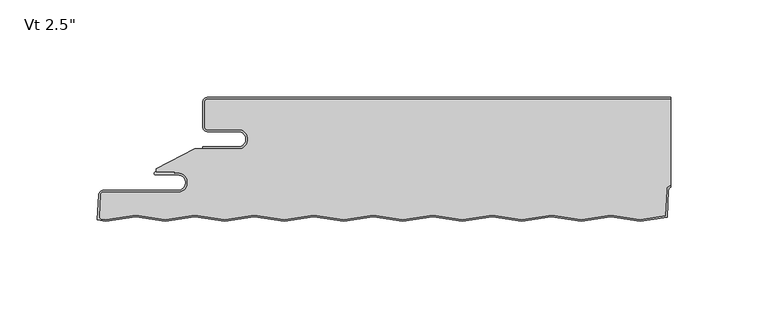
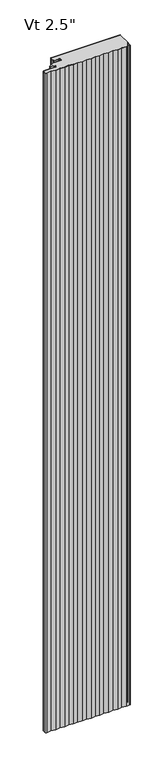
"""IFC4 building model written with IfcOpenShell, lengths in millimetres: plate geometry."""

from ifc_helpers import new_model, si_unit, point, frame, frame_2d, origin, origin_with_axes, place, context, project, spatial, polyline, circle_curve, trimmed, segment, composite_curve, outline, extrude, source, transform, mapped, element, save
from ifc_brep_helpers import plane_surface, cylinder_surface, revolved_surface, advanced_brep


def plate_a8491a3e(model_context):
    return source(origin(), model_context, "Body", "SolidModel", [
        extrude(outline(composite_curve([segment(polyline([(-101.3437498, -16.4625), (-117.2187498, -16.4625)]), True, "CONTINUOUS"), segment(trimmed(circle_curve(frame_2d((-117.2187498, -15.08125)), 1.38125), [point((-117.2187498, -16.4625))], [point((-118.5999998, -15.08125))], False, "CARTESIAN"), True, "CONTINUOUS"), segment(polyline([(-118.5999998, -15.08125), (-118.5999998, -2.38125)]), True, "CONTINUOUS"), segment(trimmed(circle_curve(frame_2d((-117.2187498, -2.38125)), 1.38125), [point((-118.5999998, -2.38125))], [point((-117.2187498, -1.0))], False, "CARTESIAN"), True, "CONTINUOUS"), segment(polyline([(-117.2187498, -1.0), (120.4062498, -1.0), (120.4062498, -45.091556)]), True, "CONTINUOUS"), segment(trimmed(circle_curve(frame_2d((120.9323848, -47.625)), 2.5875), [point((120.4062498, -45.091556))], [point((118.3484309, -47.4895807))], True, "CARTESIAN"), True, "CONTINUOUS"), segment(polyline([(118.3484309, -47.4895807), (117.6552662, -60.71595), (104.8725002, -62.7611926), (89.8350676, -60.3552034), (74.5950676, -62.7936034), (59.3550676, -60.3552034), (44.1150676, -62.7936034), (28.8750676, -60.3552034), (13.6350676, -62.7936034), (-1.6049324, -60.3552034), (-16.8449324, -62.7936034), (-32.0849324, -60.3552034), (-47.3249324, -62.7936034), (-62.5649324, -60.3552034), (-77.8049324, -62.7936034), (-93.0449324, -60.3552034), (-108.2849324, -62.7936034), (-123.5249324, -60.3552034), (-138.7649324, -62.7936034), (-154.0049324, -60.3552034), (-169.2449324, -62.7936034), (-171.5109206, -62.4310452)]), True, "CONTINUOUS"), segment(trimmed(circle_curve(frame_2d((-171.0799534, -61.11875)), 1.38125), [point((-171.5109206, -62.4310452))], [point((-172.4593104, -61.046461))], False, "CARTESIAN"), True, "CONTINUOUS"), segment(polyline([(-172.4593104, -61.046461), (-171.876929, -49.933961)]), True, "CONTINUOUS"), segment(trimmed(circle_curve(frame_2d((-170.4975719, -50.00625)), 1.38125), [point((-171.876929, -49.933961))], [point((-170.4975719, -48.625))], False, "CARTESIAN"), True, "CONTINUOUS"), segment(polyline([(-170.4975719, -48.625), (-132.3142673, -48.625)]), True, "CONTINUOUS"), segment(trimmed(circle_curve(frame_2d((-132.3142673, -43.65625)), 4.96875), [point((-132.3142673, -48.625))], [point((-132.3142673, -38.6875))], True, "CARTESIAN"), True, "CONTINUOUS"), segment(polyline([(-132.3142673, -38.6875), (-133.9017673, -38.89375), (-133.9017673, -38.1), (-143.4124998, -38.1), (-143.4124998, -36.5326309), (-123.5260921, -26.4), (-101.3437498, -26.4)]), True, "CONTINUOUS"), segment(trimmed(circle_curve(frame_2d((-101.3437498, -21.43125)), 4.96875), [point((-101.3437498, -26.4))], [point((-101.3437498, -16.4625))], True, "CARTESIAN"), True, "CONTINUOUS")], self_intersect=False)), origin_with_axes(), (0.0, 0.0, 1.0), 2400.0),
        extrude(outline(composite_curve([segment(polyline([(-119.5999998, -25.4), (-101.3437498, -25.4)]), True, "CONTINUOUS"), segment(trimmed(circle_curve(frame_2d((-101.3437498, -21.43125)), 3.96875), [point((-101.3437498, -25.4))], [point((-101.3437498, -17.4625))], True, "CARTESIAN"), True, "CONTINUOUS"), segment(polyline([(-101.3437498, -17.4625), (-117.2187498, -17.4625)]), True, "CONTINUOUS"), segment(trimmed(circle_curve(frame_2d((-117.2187498, -15.08125)), 2.38125), [point((-117.2187498, -17.4625))], [point((-119.5999998, -15.08125))], False, "CARTESIAN"), True, "CONTINUOUS"), segment(polyline([(-119.5999998, -15.08125), (-119.5999998, -2.38125)]), True, "CONTINUOUS"), segment(trimmed(circle_curve(frame_2d((-117.2187498, -2.38125)), 2.38125), [point((-119.5999998, -2.38125))], [point((-117.2187498, 0.0))], False, "CARTESIAN"), True, "CONTINUOUS"), segment(polyline([(-117.2187498, 0.0), (120.4062498, 0.0), (120.4062498, -1.0), (-117.2187498, -1.0)]), True, "CONTINUOUS"), segment(trimmed(circle_curve(frame_2d((-117.2187498, -2.38125)), 1.38125), [point((-117.2187498, -1.0))], [point((-118.5999998, -2.38125))], True, "CARTESIAN"), True, "CONTINUOUS"), segment(polyline([(-118.5999998, -2.38125), (-118.5999998, -15.08125)]), True, "CONTINUOUS"), segment(trimmed(circle_curve(frame_2d((-117.2187498, -15.08125)), 1.38125), [point((-118.5999998, -15.08125))], [point((-117.2187498, -16.4625))], True, "CARTESIAN"), True, "CONTINUOUS"), segment(polyline([(-117.2187498, -16.4625), (-101.3437498, -16.4625)]), True, "CONTINUOUS"), segment(trimmed(circle_curve(frame_2d((-101.3437498, -21.43125)), 4.96875), [point((-101.3437498, -16.4625))], [point((-101.3437498, -26.4))], False, "CARTESIAN"), True, "CONTINUOUS"), segment(polyline([(-101.3437498, -26.4), (-119.5999998, -26.4), (-119.5999998, -25.4)]), True, "CONTINUOUS")], self_intersect=False)), origin_with_axes(), (0.0, 0.0, 1.0), 2400.0),
        advanced_brep(
        [(-143.6252048, -38.1, 2400.0), (-143.6252048, -39.6875, 2400.0), (-132.3142673, -39.6875, 2400.0), (-132.3142673, -47.625, 2400.0), (-170.4975719, -47.625, 2400.0), (-172.8755585, -49.881625, 2400.0), (-173.553306, -62.813818, 2400.0), (-169.2646685, -63.5, 2400.0), (-154.0246685, -61.0616, 2400.0), (-138.7846685, -63.5, 2400.0), (-123.5446685, -61.0616, 2400.0), (-108.3046685, -63.5, 2400.0), (-93.0646685, -61.0616, 2400.0), (-77.8246685, -63.5, 2400.0), (-62.5846685, -61.0616, 2400.0), (-47.3446685, -63.5, 2400.0), (-32.1046685, -61.0616, 2400.0), (-16.8646685, -63.5, 2400.0), (-1.6246685, -61.0616, 2400.0), (13.6153315, -63.5, 2400.0), (28.8553315, -61.0616, 2400.0), (44.0953315, -63.5, 2400.0), (59.3353315, -61.0616, 2400.0), (74.5753315, -63.5, 2400.0), (89.8153315, -61.0616, 2400.0), (104.9540478, -63.4837946, 2400.0), (118.6245136, -61.3289309, 2400.0), (119.3470604, -47.5419167, 2400.0), (120.4062498, -46.1272222, 2400.0), (120.4062498, -45.091556, 2400.0), (118.3484309, -47.4895807, 2400.0), (117.6681967, -60.4692225, 2400.0), (105.0553315, -62.4872809, 2400.0), (89.8153315, -60.0488809, 2400.0), (74.5753315, -62.4872809, 2400.0), (59.3353315, -60.0488809, 2400.0), (44.0953315, -62.4872809, 2400.0), (28.8553315, -60.0488809, 2400.0), (13.6153315, -62.4872809, 2400.0), (-1.6246685, -60.0488809, 2400.0), (-16.8646685, -62.4872809, 2400.0), (-32.1046685, -60.0488809, 2400.0), (-47.3446685, -62.4872809, 2400.0), (-62.5846685, -60.0488809, 2400.0), (-77.8246685, -62.4872809, 2400.0), (-93.0646685, -60.0488809, 2400.0), (-108.3046685, -62.4872809, 2400.0), (-123.5446685, -60.0488809, 2400.0), (-138.7846685, -62.4872809, 2400.0), (-154.0246685, -60.0488809, 2400.0), (-169.2646685, -62.4872809, 2400.0), (-172.5076276, -61.9684074, 2400.0), (-171.876929, -49.933961, 2400.0), (-170.4975719, -48.625, 2400.0), (-132.3142673, -48.625, 2400.0), (-132.3142673, -38.6875, 2400.0), (-133.9017673, -38.89375, 2400.0), (-133.9017673, -38.1, 2400.0), (-143.6252048, -38.1, 0.0), (-133.9017673, -38.1, 0.0), (-133.9017673, -38.89375, 0.0), (-132.3142673, -38.6875, 0.0), (-132.3142673, -48.625, 0.0), (-170.4975719, -48.625, 0.0), (-171.876929, -49.933961, 0.0), (-172.5076276, -61.9684074, 0.0), (-169.2646685, -62.4872809, 0.0), (-154.0246685, -60.0488809, 0.0), (-138.7846685, -62.4872809, 0.0), (-123.5446685, -60.0488809, 0.0), (-108.3046685, -62.4872809, 0.0), (-93.0646685, -60.0488809, 0.0), (-77.8246685, -62.4872809, 0.0), (-62.5846685, -60.0488809, 0.0), (-47.3446685, -62.4872809, 0.0), (-32.1046685, -60.0488809, 0.0), (-16.8646685, -62.4872809, 0.0), (-1.6246685, -60.0488809, 0.0), (13.6153315, -62.4872809, 0.0), (28.8553315, -60.0488809, 0.0), (44.0953315, -62.4872809, 0.0), (59.3353315, -60.0488809, 0.0), (74.5753315, -62.4872809, 0.0), (89.8153315, -60.0488809, 0.0), (104.9540478, -62.4710755, 0.0), (117.6681967, -60.4692225, 0.0), (118.3484309, -47.4895807, 0.0), (120.4062498, -45.091556, 0.0), (120.4062498, -46.1272222, 0.0), (119.3470604, -47.5419167, 0.0), (118.6245136, -61.3289309, 0.0), (105.0553315, -63.5, 0.0), (89.8153315, -61.0616, 0.0), (74.5753315, -63.5, 0.0), (59.3353315, -61.0616, 0.0), (44.0953315, -63.5, 0.0), (28.8553315, -61.0616, 0.0), (13.6153315, -63.5, 0.0), (-1.6246685, -61.0616, 0.0), (-16.8646685, -63.5, 0.0), (-32.1046685, -61.0616, 0.0), (-47.3446685, -63.5, 0.0), (-62.5846685, -61.0616, 0.0), (-77.8246685, -63.5, 0.0), (-93.0646685, -61.0616, 0.0), (-108.3046685, -63.5, 0.0), (-123.5446685, -61.0616, 0.0), (-138.7846685, -63.5, 0.0), (-154.0246685, -61.0616, 0.0), (-169.2646685, -63.5, 0.0), (-173.553306, -62.813818, 0.0), (-172.8755585, -49.881625, 0.0), (-170.4975719, -47.625, 0.0), (-132.3142673, -47.625, 0.0), (-132.3142673, -39.6875, 0.0), (-143.6252048, -39.6875, 0.0)],
        [
            (0, 1, circle_curve(frame((-143.6252048, -38.89375, 2400.0), z_axis=(0.0, 0.0, 1.0), x_axis=(1.0, 0.0, 0.0)), 0.79375)),
            (1, 2),
            (2, 3, circle_curve(frame((-132.3142673, -43.65625, 2400.0), z_axis=(0.0, 0.0, -1.0), x_axis=(1.0, 0.0, 0.0)), 3.96875)),
            (3, 4),
            (4, 5, circle_curve(frame((-170.4975719, -50.00625, 2400.0), z_axis=(0.0, 0.0, 1.0), x_axis=(1.0, 0.0, 0.0)), 2.38125)),
            (5, 6),
            (6, 7),
            (7, 8),
            (8, 9),
            (9, 10),
            (10, 11),
            (11, 12),
            (12, 13),
            (13, 14),
            (14, 15),
            (15, 16),
            (16, 17),
            (17, 18),
            (18, 19),
            (19, 20),
            (20, 21),
            (21, 22),
            (22, 23),
            (23, 24),
            (24, 25),
            (25, 26),
            (26, 27),
            (27, 28, circle_curve(frame((120.9323848, -47.625, 2400.0), z_axis=(0.0, 0.0, -1.0), x_axis=(1.0, 0.0, 0.0)), 1.5875)),
            (28, 29),
            (29, 30, circle_curve(frame((120.9323848, -47.625, 2400.0), z_axis=(0.0, 0.0, 1.0), x_axis=(1.0, 0.0, 0.0)), 2.5875)),
            (30, 31),
            (31, 32),
            (32, 33),
            (33, 34),
            (34, 35),
            (35, 36),
            (36, 37),
            (37, 38),
            (38, 39),
            (39, 40),
            (40, 41),
            (41, 42),
            (42, 43),
            (43, 44),
            (44, 45),
            (45, 46),
            (46, 47),
            (47, 48),
            (48, 49),
            (49, 50),
            (50, 51),
            (51, 52),
            (52, 53, circle_curve(frame((-170.4975719, -50.00625, 2400.0), z_axis=(0.0, 0.0, -1.0), x_axis=(1.0, 0.0, 0.0)), 1.38125)),
            (53, 54),
            (54, 55, circle_curve(frame((-132.3142673, -43.65625, 2400.0), z_axis=(0.0, 0.0, 1.0), x_axis=(1.0, 0.0, 0.0)), 4.96875)),
            (55, 56),
            (56, 57),
            (57, 0),
            (58, 59),
            (59, 60),
            (60, 61),
            (61, 62, circle_curve(frame((-132.3142673, -43.65625, 0.0), z_axis=(0.0, 0.0, -1.0), x_axis=(1.0, 0.0, 0.0)), 4.96875)),
            (62, 63),
            (63, 64, circle_curve(frame((-170.4975719, -50.00625, 0.0), z_axis=(0.0, 0.0, 1.0), x_axis=(1.0, 0.0, 0.0)), 1.38125)),
            (64, 65),
            (65, 66),
            (66, 67),
            (67, 68),
            (68, 69),
            (69, 70),
            (70, 71),
            (71, 72),
            (72, 73),
            (73, 74),
            (74, 75),
            (75, 76),
            (76, 77),
            (77, 78),
            (78, 79),
            (79, 80),
            (80, 81),
            (81, 82),
            (82, 83),
            (83, 84),
            (84, 85),
            (85, 86),
            (86, 87, circle_curve(frame((120.9323848, -47.625, 0.0), z_axis=(0.0, 0.0, -1.0), x_axis=(1.0, 0.0, 0.0)), 2.5875)),
            (87, 88),
            (88, 89, circle_curve(frame((120.9323848, -47.625, 0.0), z_axis=(0.0, 0.0, 1.0), x_axis=(1.0, 0.0, 0.0)), 1.5875)),
            (89, 90),
            (90, 91),
            (91, 92),
            (92, 93),
            (93, 94),
            (94, 95),
            (95, 96),
            (96, 97),
            (97, 98),
            (98, 99),
            (99, 100),
            (100, 101),
            (101, 102),
            (102, 103),
            (103, 104),
            (104, 105),
            (105, 106),
            (106, 107),
            (107, 108),
            (108, 109),
            (109, 110),
            (110, 111),
            (111, 112, circle_curve(frame((-170.4975719, -50.00625, 0.0), z_axis=(0.0, 0.0, -1.0), x_axis=(1.0, 0.0, 0.0)), 2.38125)),
            (112, 113),
            (113, 114, circle_curve(frame((-132.3142673, -43.65625, 0.0), z_axis=(0.0, 0.0, 1.0), x_axis=(1.0, 0.0, 0.0)), 3.96875)),
            (114, 115),
            (115, 58, circle_curve(frame((-143.6252048, -38.89375, 0.0), z_axis=(0.0, 0.0, -1.0), x_axis=(1.0, 0.0, 0.0)), 0.79375)),
            (57, 59),
            (58, 0),
            (115, 1),
            (114, 2),
            (113, 3),
            (112, 4),
            (111, 5),
            (110, 6),
            (88, 28),
            (27, 89),
            (52, 64),
            (63, 53),
            (51, 65),
            (29, 87),
            (86, 30),
            (62, 54),
            (61, 55),
            (56, 60),
            (26, 90),
            (85, 31),
            (24, 92),
            (91, 25),
            (32, 84),
            (83, 33),
            (82, 34),
            (81, 35),
            (80, 36),
            (45, 71),
            (70, 46),
            (69, 47),
            (68, 48),
            (67, 49),
            (44, 72),
            (43, 73),
            (42, 74),
            (41, 75),
            (40, 76),
            (39, 77),
            (38, 78),
            (37, 79),
            (66, 50),
            (109, 7),
            (108, 8),
            (107, 9),
            (106, 10),
            (105, 11),
            (104, 12),
            (103, 13),
            (102, 14),
            (101, 15),
            (100, 16),
            (99, 17),
            (98, 18),
            (21, 95),
            (94, 22),
            (93, 23),
            (20, 96),
            (19, 97),
        ],
        [
            plane_surface(frame((32.0062502, -63.5, 2400.0), z_axis=(0.0, 0.0, 1.0), x_axis=(0.0, -1.0, 0.0))),
            plane_surface(frame((32.0062502, -63.5, 0.0), z_axis=(0.0, 0.0, -1.0), x_axis=(0.0, -1.0, 0.0))),
            plane_surface(frame((-143.6252048, -38.1, 2400.0), z_axis=(0.0, 1.0, 0.0), x_axis=(0.0, 0.0, -1.0))),
            cylinder_surface(frame((-143.6252048, -38.89375, 2400.0), z_axis=(0.0, 0.0, 1.0), x_axis=(1.0, 0.0, 0.0)), 0.79375),
            plane_surface(frame((-132.3142673, -39.6875, 2400.0), z_axis=(0.0, -1.0, 0.0), x_axis=(0.0, 0.0, -1.0))),
            revolved_surface(polyline([(-128.3455173, -43.65625, 0.0), (-128.3455173, -43.65625, 2400.0)]), (-132.3142673, -43.65625, 2400.0), (0.0, 0.0, -1.0)),
            plane_surface(frame((-170.4975719, -47.625, 2400.0), z_axis=(0.0, 1.0, 0.0), x_axis=(0.0, 0.0, -1.0))),
            cylinder_surface(frame((-170.4975719, -50.00625, 2400.0), z_axis=(0.0, 0.0, 1.0), x_axis=(1.0, 0.0, 0.0)), 2.38125),
            plane_surface(frame((-173.553306, -62.813818, 2400.0), z_axis=(-0.9986295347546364, 0.05233595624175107, 0.0), x_axis=(0.0, 0.0, -1.0))),
            revolved_surface(polyline([(122.5198848, -47.625, 0.0), (122.5198848, -47.625, 2400.0)]), (120.9323848, -47.625, 2400.0), (0.0, 0.0, -1.0)),
            revolved_surface(polyline([(-169.1163219, -50.00625, 0.0), (-169.1163219, -50.00625, 2400.0)]), (-170.4975719, -50.00625, 2400.0), (0.0, 0.0, -1.0)),
            plane_surface(frame((-171.876929, -49.933961, 2400.0), z_axis=(0.9986295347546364, -0.05233595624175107, 0.0), x_axis=(0.0, 0.0, -1.0))),
            cylinder_surface(frame((120.9323848, -47.625, 2400.0), z_axis=(0.0, 0.0, 1.0), x_axis=(1.0, 0.0, 0.0)), 2.5875),
            plane_surface(frame((-132.3142673, -48.625, 2400.0), z_axis=(0.0, -1.0, 0.0), x_axis=(0.0, 0.0, -1.0))),
            cylinder_surface(frame((-132.3142673, -43.65625, 2400.0), z_axis=(0.0, 0.0, 1.0), x_axis=(1.0, 0.0, 0.0)), 4.96875),
            plane_surface(frame((-133.9017673, -38.1, 2400.0), z_axis=(1.0, 0.0, 0.0), x_axis=(0.0, 0.0, -1.0))),
            plane_surface(frame((-133.9017673, -38.89375, 2400.0), z_axis=(-0.12883844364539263, 0.9916655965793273, 0.0), x_axis=(0.0, 0.0, -1.0))),
            plane_surface(frame((119.3470604, -47.5419167, 2400.0), z_axis=(0.9986295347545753, -0.052335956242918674, 0.0), x_axis=(0.0, 0.0, -1.0))),
            plane_surface(frame((117.6681967, -60.4692225, 2400.0), z_axis=(-0.9986295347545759, 0.05233595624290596, 0.0), x_axis=(0.0, 0.0, -1.0))),
            plane_surface(frame((104.9540478, -63.4837946, 2400.0), z_axis=(-0.15799050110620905, -0.9874406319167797, 0.0), x_axis=(0.0, 0.0, -1.0))),
            plane_surface(frame((89.8153315, -60.0488809, 2400.0), z_axis=(0.15799050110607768, 0.9874406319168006, 0.0), x_axis=(0.0, 0.0, -1.0))),
            plane_surface(frame((74.5753315, -62.4872809, 2400.0), z_axis=(-0.15799050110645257, 0.9874406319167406, 0.0), x_axis=(0.0, 0.0, -1.0))),
            plane_surface(frame((59.3353315, -60.0488809, 2400.0), z_axis=(0.157990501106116, 0.9874406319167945, 0.0), x_axis=(0.0, 0.0, -1.0))),
            plane_surface(frame((44.0953315, -62.4872809, 2400.0), z_axis=(-0.15799050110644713, 0.9874406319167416, 0.0), x_axis=(0.0, 0.0, -1.0))),
            plane_surface(frame((-108.3046685, -62.4872809, 2400.0), z_axis=(-0.15799050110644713, 0.9874406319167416, 0.0), x_axis=(0.0, 0.0, -1.0))),
            plane_surface(frame((-123.5446685, -60.0488809, 2400.0), z_axis=(0.15799050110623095, 0.9874406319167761, 0.0), x_axis=(0.0, 0.0, -1.0))),
            plane_surface(frame((-138.7846685, -62.4872809, 2400.0), z_axis=(-0.15799050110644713, 0.9874406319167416, 0.0), x_axis=(0.0, 0.0, -1.0))),
            plane_surface(frame((-154.0246685, -60.0488809, 2400.0), z_axis=(0.157990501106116, 0.9874406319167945, 0.0), x_axis=(0.0, 0.0, -1.0))),
            plane_surface(frame((-93.0646685, -60.0488809, 2400.0), z_axis=(0.15799050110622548, 0.987440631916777, 0.0), x_axis=(0.0, 0.0, -1.0))),
            plane_surface(frame((-77.8246685, -62.4872809, 2400.0), z_axis=(-0.15799050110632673, 0.9874406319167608, 0.0), x_axis=(0.0, 0.0, -1.0))),
            plane_surface(frame((-62.5846685, -60.0488809, 2400.0), z_axis=(0.15799050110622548, 0.987440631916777, 0.0), x_axis=(0.0, 0.0, -1.0))),
            plane_surface(frame((-47.3446685, -62.4872809, 2400.0), z_axis=(-0.15799050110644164, 0.9874406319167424, 0.0), x_axis=(0.0, 0.0, -1.0))),
            plane_surface(frame((-32.1046685, -60.0488809, 2400.0), z_axis=(0.15799050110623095, 0.9874406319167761, 0.0), x_axis=(0.0, 0.0, -1.0))),
            plane_surface(frame((-16.8646685, -62.4872809, 2400.0), z_axis=(-0.15799050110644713, 0.9874406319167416, 0.0), x_axis=(0.0, 0.0, -1.0))),
            plane_surface(frame((-1.6246685, -60.0488809, 2400.0), z_axis=(0.157990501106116, 0.9874406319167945, 0.0), x_axis=(0.0, 0.0, -1.0))),
            plane_surface(frame((13.6153315, -62.4872809, 2400.0), z_axis=(-0.15799050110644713, 0.9874406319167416, 0.0), x_axis=(0.0, 0.0, -1.0))),
            plane_surface(frame((28.8553315, -60.0488809, 2400.0), z_axis=(0.15799050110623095, 0.9874406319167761, 0.0), x_axis=(0.0, 0.0, -1.0))),
            plane_surface(frame((-169.2646685, -62.4872809, 2400.0), z_axis=(-0.15799050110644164, 0.9874406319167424, 0.0), x_axis=(0.0, 0.0, -1.0))),
            plane_surface(frame((-172.5076276, -61.9684074, 2400.0), z_axis=(0.1579905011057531, 0.9874406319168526, 0.0), x_axis=(0.0, 0.0, -1.0))),
            plane_surface(frame((-169.2646685, -63.5, 2400.0), z_axis=(-0.15799050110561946, -0.9874406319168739, 0.0), x_axis=(0.0, 0.0, -1.0))),
            plane_surface(frame((-154.0246685, -61.0616, 2400.0), z_axis=(0.15799050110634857, -0.9874406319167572, 0.0), x_axis=(0.0, 0.0, -1.0))),
            plane_surface(frame((-138.7846685, -63.5, 2400.0), z_axis=(-0.15799050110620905, -0.9874406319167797, 0.0), x_axis=(0.0, 0.0, -1.0))),
            plane_surface(frame((-123.5446685, -61.0616, 2400.0), z_axis=(0.15799050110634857, -0.9874406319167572, 0.0), x_axis=(0.0, 0.0, -1.0))),
            plane_surface(frame((-108.3046685, -63.5, 2400.0), z_axis=(-0.15799050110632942, -0.9874406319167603, 0.0), x_axis=(0.0, 0.0, -1.0))),
            plane_surface(frame((-93.0646685, -61.0616, 2400.0), z_axis=(0.15799050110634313, -0.9874406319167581, 0.0), x_axis=(0.0, 0.0, -1.0))),
            plane_surface(frame((-77.8246685, -63.5, 2400.0), z_axis=(-0.15799050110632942, -0.9874406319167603, 0.0), x_axis=(0.0, 0.0, -1.0))),
            plane_surface(frame((-62.5846685, -61.0616, 2400.0), z_axis=(0.1579905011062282, -0.9874406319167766, 0.0), x_axis=(0.0, 0.0, -1.0))),
            plane_surface(frame((-47.3446685, -63.5, 2400.0), z_axis=(-0.15799050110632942, -0.9874406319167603, 0.0), x_axis=(0.0, 0.0, -1.0))),
            plane_surface(frame((-32.1046685, -61.0616, 2400.0), z_axis=(0.15799050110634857, -0.9874406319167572, 0.0), x_axis=(0.0, 0.0, -1.0))),
            plane_surface(frame((-16.8646685, -63.5, 2400.0), z_axis=(-0.15799050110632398, -0.9874406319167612, 0.0), x_axis=(0.0, 0.0, -1.0))),
            plane_surface(frame((-1.6246685, -61.0616, 2400.0), z_axis=(0.15799050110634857, -0.9874406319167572, 0.0), x_axis=(0.0, 0.0, -1.0))),
            plane_surface(frame((59.3353315, -61.0616, 2400.0), z_axis=(0.15799050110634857, -0.9874406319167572, 0.0), x_axis=(0.0, 0.0, -1.0))),
            plane_surface(frame((74.5753315, -63.5, 2400.0), z_axis=(-0.15799050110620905, -0.9874406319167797, 0.0), x_axis=(0.0, 0.0, -1.0))),
            plane_surface(frame((89.8153315, -61.0616, 2400.0), z_axis=(0.15799050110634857, -0.9874406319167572, 0.0), x_axis=(0.0, 0.0, -1.0))),
            plane_surface(frame((44.0953315, -63.5, 2400.0), z_axis=(-0.15799050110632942, -0.9874406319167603, 0.0), x_axis=(0.0, 0.0, -1.0))),
            plane_surface(frame((28.8553315, -61.0616, 2400.0), z_axis=(0.15799050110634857, -0.9874406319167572, 0.0), x_axis=(0.0, 0.0, -1.0))),
            plane_surface(frame((13.6153315, -63.5, 2400.0), z_axis=(-0.15799050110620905, -0.9874406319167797, 0.0), x_axis=(0.0, 0.0, -1.0))),
            plane_surface(frame((118.6245136, -61.3289309, 2400.0), z_axis=(0.15799050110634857, -0.9874406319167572, 0.0), x_axis=(0.0, 0.0, -1.0))),
            plane_surface(frame((105.0553315, -62.4872809, 2400.0), z_axis=(-0.15799050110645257, 0.9874406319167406, 0.0), x_axis=(0.0, 0.0, -1.0))),
            plane_surface(frame((120.4062498, -73.5, 2400.0), z_axis=(1.0, 0.0, 0.0), x_axis=(0.0, 0.0, -1.0))),
        ],
        [
            (0, [[1, 2, 3, 4, 5, 6, 7, 8, 9, 10, 11, 12, 13, 14, 15, 16, 17, 18, 19, 20, 21, 22, 23, 24, 25, 26, 27, 28, 29, 30, 31, 32, 33, 34, 35, 36, 37, 38, 39, 40, 41, 42, 43, 44, 45, 46, 47, 48, 49, 50, 51, 52, 53, 54, 55, 56, 57, 58]]),
            (1, [[59, 60, 61, 62, 63, 64, 65, 66, 67, 68, 69, 70, 71, 72, 73, 74, 75, 76, 77, 78, 79, 80, 81, 82, 83, 84, 85, 86, 87, 88, 89, 90, 91, 92, 93, 94, 95, 96, 97, 98, 99, 100, 101, 102, 103, 104, 105, 106, 107, 108, 109, 110, 111, 112, 113, 114, 115, 116]]),
            (2, [[117, -59, 118, -58]]),
            (3, [[-118, -116, 119, -1]]),
            (4, [[-119, -115, 120, -2]]),
            (5, [[-120, -114, 121, -3]]),
            (6, [[-121, -113, 122, -4]]),
            (7, [[-122, -112, 123, -5]]),
            (8, [[-123, -111, 124, -6]]),
            (9, [[-89, 125, -28, 126]]),
            (10, [[127, -64, 128, -53]]),
            (11, [[129, -65, -127, -52]]),
            (12, [[-30, 130, -87, 131]]),
            (13, [[-128, -63, 132, -54]]),
            (14, [[-132, -62, 133, -55]]),
            (15, [[134, -60, -117, -57]]),
            (16, [[-133, -61, -134, -56]]),
            (17, [[135, -90, -126, -27]]),
            (18, [[-131, -86, 136, -31]]),
            (19, [[137, -92, 138, -25]]),
            (20, [[139, -84, 140, -33]]),
            (21, [[-140, -83, 141, -34]]),
            (22, [[-141, -82, 142, -35]]),
            (23, [[-142, -81, 143, -36]]),
            (24, [[144, -71, 145, -46]]),
            (25, [[-145, -70, 146, -47]]),
            (26, [[-146, -69, 147, -48]]),
            (27, [[-147, -68, 148, -49]]),
            (28, [[149, -72, -144, -45]]),
            (29, [[150, -73, -149, -44]]),
            (30, [[151, -74, -150, -43]]),
            (31, [[152, -75, -151, -42]]),
            (32, [[153, -76, -152, -41]]),
            (33, [[154, -77, -153, -40]]),
            (34, [[155, -78, -154, -39]]),
            (35, [[156, -79, -155, -38]]),
            (36, [[-143, -80, -156, -37]]),
            (37, [[-148, -67, 157, -50]]),
            (38, [[-157, -66, -129, -51]]),
            (39, [[-124, -110, 158, -7]]),
            (40, [[-158, -109, 159, -8]]),
            (41, [[-159, -108, 160, -9]]),
            (42, [[-160, -107, 161, -10]]),
            (43, [[-161, -106, 162, -11]]),
            (44, [[-162, -105, 163, -12]]),
            (45, [[-163, -104, 164, -13]]),
            (46, [[-164, -103, 165, -14]]),
            (47, [[-165, -102, 166, -15]]),
            (48, [[-166, -101, 167, -16]]),
            (49, [[-167, -100, 168, -17]]),
            (50, [[-168, -99, 169, -18]]),
            (51, [[170, -95, 171, -22]]),
            (52, [[-171, -94, 172, -23]]),
            (53, [[-172, -93, -137, -24]]),
            (54, [[173, -96, -170, -21]]),
            (55, [[174, -97, -173, -20]]),
            (56, [[-169, -98, -174, -19]]),
            (57, [[-138, -91, -135, -26]]),
            (58, [[-136, -85, -139, -32]]),
            (59, [[-125, -88, -130, -29]]),
        ],
    ),
    ])


if __name__ == "__main__":
    model = new_model("IFC4")
    model_context = context("Model", 3, world=origin())
    ifc_project = project(units=[si_unit("LENGTHUNIT", "METRE", prefix="MILLI")], contexts=[model_context])
    site = spatial("IfcSite", under=ifc_project)
    building = spatial("IfcBuilding", under=site)
    placement = place(None, origin())
    plate_shape = plate_a8491a3e(model_context)
    element("IfcPlate", 1, ObjectType="KIP-12-DWHR-R19-CP-Vt-S : Vt 2.5\"", at=placement, inside=building, context=model_context, shape_type="MappedRepresentation", body=[
        mapped(plate_shape, transform((0.0, 0.0, 0.0), x_axis=(1.0, 0.0, 0.0), y_axis=(0.0, 1.0, 0.0), z_axis=(0.0, 0.0, 1.0))),
    ])
    save(model, "model.ifc")
